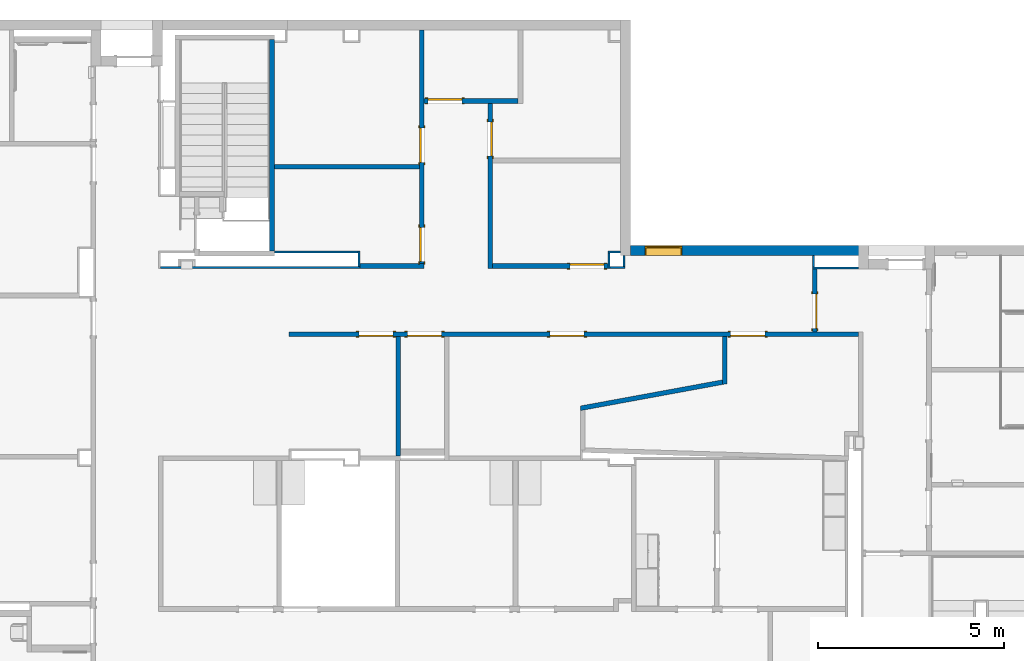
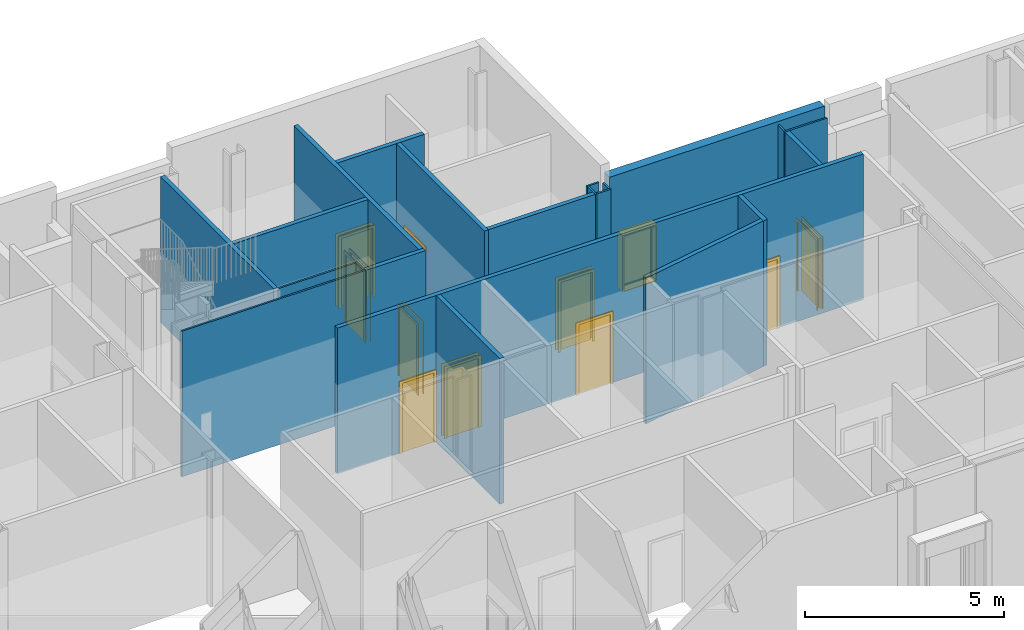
# One storey, part 34 of 82: 22 walls, 10 doors, 1 window, 11 openings.
"""IFC2X3 building model written with IfcOpenShell, lengths in metres."""

import ifcopenshell
import ifcopenshell.guid

model = None  # the IFC model being written
_history = None  # IfcOwnerHistory: only IFC2X3 demands one
_inside = {}  # id of a spatial element -> (the spatial element, [elements in it])
_under = {}  # id of a project, library or spatial element -> (it, [spatial elements below it])
_declared = {}  # id of a project -> (the project, [libraries it declares])
_typed = {}  # id of a type object -> (the type object, [elements of that type])
_made_of = {}  # id of a material, layer set ... -> (it, [elements and type objects made of it])


def new_model(schema):
    """Start an empty IFC model of exactly this schema.

    Asked for "IFC4X3", IfcOpenShell would pick the latest addendum, in which some entities
    have other attributes; the version numbers below select the first issue.
    IFC2X3 requires an IfcOwnerHistory on every rooted entity: one is made here for all.
    """
    global model, _history
    if schema == "IFC4X3":
        model = ifcopenshell.file(schema_version=(4, 3, 0, 0))
    else:
        model = ifcopenshell.file(schema=schema)
    _inside.clear()
    _under.clear()
    _declared.clear()
    _typed.clear()
    _made_of.clear()
    _history = None
    if model.schema == "IFC2X3":
        org = make("IfcOrganization", Name="unknown")
        user = make(
            "IfcPersonAndOrganization",
            ThePerson=make("IfcPerson", FamilyName="unknown"),
            TheOrganization=org,
        )
        app = make(
            "IfcApplication",
            ApplicationDeveloper=org,
            Version="unknown",
            ApplicationFullName="unknown",
            ApplicationIdentifier="unknown",
        )
        _history = make(
            "IfcOwnerHistory",
            OwningUser=user,
            OwningApplication=app,
            ChangeAction="ADDED",
            CreationDate=0,
        )
    return model


def make(cls, **values):
    """One entity of the class cls with the attributes given. An attribute that is None is left unset."""
    return model.create_entity(
        cls, **{name: value for name, value in values.items() if value is not None}
    )


def entity(cls, *values):
    """Any entity or typed value of the class cls, its attributes in the order of the schema. None: left unset."""
    e = model.create_entity(cls)
    for i, value in enumerate(values):
        if value is not None:
            e[i] = value
    return e


def rooted(cls, **values):
    """An entity with a GlobalId (a new one), such as an element, a storey or a relation."""
    return make(cls, GlobalId=ifcopenshell.guid.new(), OwnerHistory=_history, **values)


def si_unit(unit_type, name, prefix=None):
    """IfcSIUnit, for example si_unit("LENGTHUNIT", "METRE", prefix="MILLI")."""
    return make("IfcSIUnit", UnitType=unit_type, Prefix=prefix, Name=name)


def converted_unit(unit_type, name, factor, base, dimensions=None, offset=None):
    """IfcConversionBasedUnit, such as the inch: factor (a typed value) times the base unit."""
    return make(
        "IfcConversionBasedUnit"
        if offset is None
        else "IfcConversionBasedUnitWithOffset",
        ConversionOffset=offset,
        Dimensions=None
        if dimensions is None
        else entity("IfcDimensionalExponents", *dimensions),
        UnitType=unit_type,
        Name=name,
        ConversionFactor=make(
            "IfcMeasureWithUnit", ValueComponent=factor, UnitComponent=base
        ),
    )


def assignment(units):
    """IfcUnitAssignment: the units of a project."""
    return None if units is None else make("IfcUnitAssignment", Units=units)


def point(xyz):
    """IfcCartesianPoint."""
    return None if xyz is None else make("IfcCartesianPoint", Coordinates=xyz)


def direction(xyz):
    """IfcDirection."""
    return None if xyz is None else make("IfcDirection", DirectionRatios=xyz)


def frame(location, z_axis=None, x_axis=None):
    """IfcAxis2Placement3D, a coordinate frame: its origin and axes. An axis left out is left unset."""
    return make(
        "IfcAxis2Placement3D",
        Location=point(location),
        Axis=direction(z_axis),
        RefDirection=direction(x_axis),
    )


def frame_2d(location, x_axis=None):
    """IfcAxis2Placement2D, a coordinate frame in the plane: its origin and x axis."""
    return make(
        "IfcAxis2Placement2D", Location=point(location), RefDirection=direction(x_axis)
    )


def origin():
    """The frame at (0, 0, 0) with its axes left unset."""
    return frame((0.0, 0.0, 0.0))


def origin_2d_with_axis():
    """The frame at (0, 0) in the plane with the x axis (1, 0) written out."""
    return frame_2d((0.0, 0.0), x_axis=(1.0, 0.0))


def place(relative_to, where):
    """IfcLocalPlacement: puts the frame where relative to a parent placement (None: the world)."""
    return make(
        "IfcLocalPlacement", PlacementRelTo=relative_to, RelativePlacement=where
    )


def context(
    kind, dimensions, precision=None, world=None, true_north=None, identifier=None
):
    """IfcGeometricRepresentationContext, for example the 3D "Model" context."""
    return make(
        "IfcGeometricRepresentationContext",
        ContextIdentifier=identifier,
        ContextType=kind,
        CoordinateSpaceDimension=dimensions,
        Precision=precision,
        WorldCoordinateSystem=world,
        TrueNorth=true_north,
    )


def project(units=None, contexts=None):
    """IfcProject with its units and contexts."""
    return rooted(
        "IfcProject",
        Name="project",
        RepresentationContexts=contexts,
        UnitsInContext=assignment(units),
    )


def spatial(cls, under=None, at=None, **own):
    """A site, building, storey or space (cls), placed at a placement, below another one or the project."""
    s = rooted(cls, ObjectPlacement=at, **own)
    if under is not None:
        _under.setdefault(under.id(), (under, []))[1].append(s)
    return s


def polyline(points):
    """IfcPolyline through the points."""
    return make("IfcPolyline", Points=[point(p) for p in points])


def profile(cls, at=None, kind="AREA", **sizes):
    """A parametric profile (cls). Its sizes go by their IFC names, for example OverallWidth=200.0."""
    return make(cls, ProfileType=kind, Position=at, **sizes)


def rectangle(**sizes):
    """IfcRectangleProfileDef."""
    return profile("IfcRectangleProfileDef", **sizes)


def outline(outer, holes=None, kind="AREA"):
    """IfcArbitraryClosedProfileDef: a profile drawn as a closed curve; with holes, ...WithVoids."""
    if holes is None:
        return make("IfcArbitraryClosedProfileDef", ProfileType=kind, OuterCurve=outer)
    return make(
        "IfcArbitraryProfileDefWithVoids",
        ProfileType=kind,
        OuterCurve=outer,
        InnerCurves=holes,
    )


def extrude(swept, where, along, depth):
    """IfcExtrudedAreaSolid: the profile swept, set in the frame where, extruded along a direction by depth."""
    return make(
        "IfcExtrudedAreaSolid",
        SweptArea=swept,
        Position=where,
        ExtrudedDirection=direction(along),
        Depth=depth,
    )


def shape(context_of_items, identifier, shape_type, items):
    """IfcShapeRepresentation: the items that make up one representation, for example the "Body"."""
    return make(
        "IfcShapeRepresentation",
        ContextOfItems=context_of_items,
        RepresentationIdentifier=identifier,
        RepresentationType=shape_type,
        Items=items,
    )


def source(mapping_origin, context_of_items, identifier, shape_type, items):
    """IfcRepresentationMap: a shape defined once, which mapped items show again and again."""
    return make(
        "IfcRepresentationMap",
        MappingOrigin=mapping_origin,
        MappedRepresentation=shape(context_of_items, identifier, shape_type, items),
    )


def transform(
    local_origin,
    x_axis=None,
    y_axis=None,
    z_axis=None,
    scale=None,
    scale2=None,
    scale3=None,
    uniform=True,
):
    """IfcCartesianTransformationOperator3D, or its non-uniform kind. x_axis, y_axis, z_axis: its Axis1, 2, 3."""
    if uniform:
        return make(
            "IfcCartesianTransformationOperator3D",
            Axis1=direction(x_axis),
            Axis2=direction(y_axis),
            LocalOrigin=point(local_origin),
            Scale=scale,
            Axis3=direction(z_axis),
        )
    return make(
        "IfcCartesianTransformationOperator3DnonUniform",
        Axis1=direction(x_axis),
        Axis2=direction(y_axis),
        LocalOrigin=point(local_origin),
        Scale=scale,
        Axis3=direction(z_axis),
        Scale2=scale2,
        Scale3=scale3,
    )


def mapped(mapping_source, mapping_target):
    """IfcMappedItem: shows the shape of a source again, moved by a transform."""
    return make(
        "IfcMappedItem", MappingSource=mapping_source, MappingTarget=mapping_target
    )


def material(Name=None, Category=None):
    """IfcMaterial."""
    return make("IfcMaterial", Name=Name, Category=Category)


def layer(
    of_material, thickness, ventilated=None, Name=None, Category=None, Priority=None
):
    """IfcMaterialLayer: one layer of a wall or slab, of a material (None: an air gap)."""
    return make(
        "IfcMaterialLayer",
        Material=of_material,
        LayerThickness=thickness,
        IsVentilated=ventilated,
        Name=Name,
        Category=Category,
        Priority=Priority,
    )


def layer_set(layers, Name=None):
    """IfcMaterialLayerSet."""
    return make("IfcMaterialLayerSet", MaterialLayers=layers, LayerSetName=Name)


def layer_usage(for_layer_set, set_direction, sense, offset, extent=None):
    """IfcMaterialLayerSetUsage: how a layer set lies in its element."""
    return make(
        "IfcMaterialLayerSetUsage",
        ForLayerSet=for_layer_set,
        LayerSetDirection=set_direction,
        DirectionSense=sense,
        OffsetFromReferenceLine=offset,
        ReferenceExtent=extent,
    )


def made_of(thing, what):
    """Note that an element or type object is made of a material, layer set ...; save() writes the relation."""
    if what is not None:
        _made_of.setdefault(what.id(), (what, []))[1].append(thing)
    return thing


def type_object(cls, material=None, **own):
    """A type object (cls), such as IfcWallType, which elements share."""
    return made_of(rooted(cls, **own), material)


def type_shapes(of_type, sources):
    """Give a type object the sources (RepresentationMaps) that its elements show as mapped items."""
    of_type.RepresentationMaps = sources


def element(
    cls,
    number,
    at=None,
    inside=None,
    cuts=None,
    type_object=None,
    material=None,
    context=None,
    identifier="Body",
    shape_type=None,
    held_by="IfcProductDefinitionShape",
    body=None,
    shapes=None,
    **own,
):
    """One element of the class cls, such as IfcWall. Its Tag is "e" and its number.

    at: its placement. inside: the storey or other place that contains it. cuts: it is an
    opening in that element (IfcRelVoidsElement). A single representation is given by context,
    identifier, shape_type and body (its items); several are given by shapes. held_by: the class
    of the entity that holds the representations. save() writes the other relations.
    """
    e = rooted(cls, Tag="e%d" % number, ObjectPlacement=at, **own)
    if body is not None:
        shapes = [shape(context, identifier, shape_type, body)]
    if shapes is not None:
        e.Representation = make(held_by, Representations=shapes)
    if inside is not None:
        _inside.setdefault(inside.id(), (inside, []))[1].append(e)
    if cuts is not None:
        rooted(
            "IfcRelVoidsElement", RelatingBuildingElement=cuts, RelatedOpeningElement=e
        )
    if type_object is not None:
        _typed.setdefault(type_object.id(), (type_object, []))[1].append(e)
    return made_of(e, material)


def fill(opening, filler):
    """IfcRelFillsElement: the door or window that sits in an opening."""
    return rooted(
        "IfcRelFillsElement",
        RelatingOpeningElement=opening,
        RelatedBuildingElement=filler,
    )


def aggregate(whole, parts):
    """IfcRelAggregates: a whole, such as a stair, and the parts it consists of."""
    return rooted("IfcRelAggregates", RelatingObject=whole, RelatedObjects=parts)


def save(model, path):
    """Write the relations noted so far, then the file.

    IfcRelAggregates (storeys below a building ...), IfcRelContainedInSpatialStructure (elements
    in a storey), IfcRelDefinesByType, IfcRelAssociatesMaterial and IfcRelDeclares: one each for
    every whole, place, type object, material and project.
    """
    for whole, parts in _under.values():
        aggregate(whole, parts)
    for where, things in _inside.values():
        rooted(
            "IfcRelContainedInSpatialStructure",
            RelatedElements=things,
            RelatingStructure=where,
        )
    for kind, things in _typed.values():
        rooted("IfcRelDefinesByType", RelatedObjects=things, RelatingType=kind)
    for what, things in _made_of.values():
        rooted("IfcRelAssociatesMaterial", RelatedObjects=things, RelatingMaterial=what)
    for by, libraries in _declared.values():
        rooted("IfcRelDeclares", RelatingContext=by, RelatedDefinitions=libraries)
    model.write(path)


model = new_model("IFC2X3")

# Units and contexts
model_context = context("Model", 3, precision=1e-09, world=origin())
plan_context = context("Plan", 3, precision=1e-09, world=origin())
ifc_project = project(units=[si_unit("LENGTHUNIT", "METRE"), si_unit("AREAUNIT", "SQUARE_METRE"), si_unit("VOLUMEUNIT", "CUBIC_METRE"), converted_unit("PLANEANGLEUNIT", "DEGREE", entity("IfcRatioMeasure", 0.01745329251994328), si_unit("PLANEANGLEUNIT", "RADIAN"), dimensions=[0, 0, 0, 0, 0, 0, 0]), si_unit("TIMEUNIT", "SECOND")], contexts=[model_context, plan_context])

# Site, building, storey
site_placement = place(None, origin())
site = spatial("IfcSite", under=ifc_project, at=site_placement, Name="Default", CompositionType="ELEMENT")
building_placement = place(site_placement, origin())
building = spatial("IfcBuilding", under=site, at=building_placement, CompositionType="ELEMENT")
storey_placement = place(building_placement, origin())
storey = spatial("IfcBuildingStorey", under=building, at=storey_placement, Name="First Floor", CompositionType="ELEMENT", Elevation=-3.531500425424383e-13)

# Wall, openings, doors
ifc_material_1 = material(Name="Plasterboard")
ifc_layer_1 = layer(ifc_material_1, 0.016)
ifc_material_2 = material(Name="Metal - Stud Layer")
ifc_layer_2 = layer(ifc_material_2, 0.092)
ifc_layer_3 = layer(ifc_material_1, 0.016)
ifc_layer_set_1 = layer_set([ifc_layer_1, ifc_layer_2, ifc_layer_3], Name="Basic Wall:Interior - Partition (92mm Stud)")
ifc_layer_usage_1 = layer_usage(ifc_layer_set_1, "AXIS2", "NEGATIVE", 0.062)
wall_1_placement = place(storey_placement, frame((-35.21500000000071, 48.08799999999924, 0.0)))
wall_1 = element("IfcWallStandardCase", 1, at=wall_1_placement, inside=storey, material=ifc_layer_usage_1, Name="Basic Wall:Interior - Partition (92mm Stud)", ObjectType="Basic Wall:Interior - Partition (92mm Stud)", context=model_context, shape_type="SweptSolid", body=[
    extrude(rectangle(XDim=15.26100000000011, YDim=0.1240000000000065, at=frame_2d((7.630500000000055, 0.0), x_axis=(-1.0, 0.0))), origin(), (0.0, 0.0, 1.0), 4.468000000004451),
])
opening_1_placement = place(wall_1_placement, frame((12.75500000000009, 0.06199999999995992, 0.0)))
opening_1 = element("IfcOpeningElement", 2, at=opening_1_placement, cuts=wall_1, Name="M_Single-Flush:0915 x 2134mm:0915 x 2134mm:1", ObjectType="Opening", context=model_context, shape_type="SweptSolid", body=[
    extrude(rectangle(XDim=0.9149999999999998, YDim=2.134, at=frame_2d((1.067, 0.4575), x_axis=(0.0, 1.0))), frame((0.0, 0.0, 0.0), z_axis=(0.0, -1.0, 0.0), x_axis=(0.0, 0.0, 1.0)), (0.0, 0.0, 1.0), 0.124),
])
opening_2_placement = place(wall_1_placement, frame((2.786000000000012, 0.06199999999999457, 0.0)))
opening_2 = element("IfcOpeningElement", 3, at=opening_2_placement, cuts=wall_1, Name="M_Single-Flush:0915 x 2134mm:0915 x 2134mm:1", ObjectType="Opening", context=model_context, shape_type="SweptSolid", body=[
    extrude(rectangle(XDim=0.9149999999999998, YDim=2.134, at=frame_2d((1.067, 0.4574999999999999), x_axis=(0.0, -1.0))), frame((0.0, 0.0, 0.0), z_axis=(0.0, -1.0, 0.0), x_axis=(0.0, 0.0, 1.0)), (0.0, 0.0, 1.0), 0.124),
])
opening_3_placement = place(wall_1_placement, frame((4.086000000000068, 0.06199999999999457, 0.0)))
opening_3 = element("IfcOpeningElement", 4, at=opening_3_placement, cuts=wall_1, Name="M_Single-Flush:0915 x 2134mm:0915 x 2134mm:1", ObjectType="Opening", context=model_context, shape_type="SweptSolid", body=[
    extrude(rectangle(XDim=0.9149999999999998, YDim=2.134, at=frame_2d((1.067, 0.4574999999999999), x_axis=(0.0, -1.0))), frame((0.0, 0.0, 0.0), z_axis=(0.0, -1.0, 0.0), x_axis=(0.0, 0.0, 1.0)), (0.0, 0.0, 1.0), 0.124),
])
opening_4_placement = place(wall_1_placement, frame((7.905000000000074, 0.06199999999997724, 0.0)))
opening_4 = element("IfcOpeningElement", 5, at=opening_4_placement, cuts=wall_1, Name="M_Single-Flush:0915 x 2134mm:0915 x 2134mm:1", ObjectType="Opening", context=model_context, shape_type="SweptSolid", body=[
    extrude(rectangle(XDim=0.9149999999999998, YDim=2.134, at=frame_2d((1.067, 0.4574999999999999), x_axis=(0.0, -1.0))), frame((0.0, 0.0, 0.0), z_axis=(0.0, -1.0, 0.0), x_axis=(0.0, 0.0, 1.0)), (0.0, 0.0, 1.0), 0.124),
])
door_style_1 = type_object("IfcDoorStyle", Name="0915 x 2134mm", ConstructionType="NOTDEFINED", OperationType="SINGLE_SWING_RIGHT", ParameterTakesPrecedence=False, Sizeable=False)
shared_shape_1 = source(origin(), model_context, "Body", "SweptSolid", [
    extrude(outline(polyline([(-0.5335, -1.123999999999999), (0.5334999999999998, -1.123999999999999), (0.5334999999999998, 1.086), (0.4574999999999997, 1.086), (0.4574999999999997, -1.048000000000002), (-0.4574999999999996, -1.048000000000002), (-0.4574999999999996, 1.086), (-0.5335, 1.086), (-0.5335, -1.123999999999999)])), frame((0.4575000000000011, 0.1239999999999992, 1.086), z_axis=(0.0, 1.0, 0.0), x_axis=(1.0, 0.0, 0.0)), (0.0, 0.0, 1.0), 0.02499999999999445),
    extrude(outline(polyline([(-1.123999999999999, -0.5334999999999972), (1.085999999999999, -0.5334999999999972), (1.085999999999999, -0.4575000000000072), (-1.048, -0.4575000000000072), (-1.048, 0.4575000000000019), (1.085999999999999, 0.4575000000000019), (1.085999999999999, 0.5335000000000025), (-1.123999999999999, 0.5335000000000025), (-1.123999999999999, -0.5334999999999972)])), frame((0.4575000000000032, -0.02500000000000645, 1.085999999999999), z_axis=(0.0, 1.0, 0.0), x_axis=(0.0, 0.0, -1.0)), (0.0, 0.0, 1.0), 0.02500000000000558),
    extrude(rectangle(XDim=0.051, YDim=0.9149999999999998, at=origin_2d_with_axis()), frame((0.4575000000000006, 0.09849999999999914, 0.0), z_axis=(0.0, 0.0, 1.0), x_axis=(0.0, 1.0, 0.0)), (0.0, 0.0, 1.0), 2.133999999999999),
])
type_shapes(door_style_1, [shared_shape_1])
door_1_placement = place(opening_1_placement, frame((0.0, 0.0, 0.0), z_axis=(0.0, 0.0, 1.0), x_axis=(-1.0, 0.0, 0.0)))
door_1 = element("IfcDoor", 6, at=door_1_placement, inside=storey, type_object=door_style_1, Name="M_Single-Flush:0915 x 2134mm:0915 x 2134mm", ObjectType="0915 x 2134mm", OverallHeight=2.134, OverallWidth=0.9149999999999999, context=model_context, shape_type="MappedRepresentation", body=[
    mapped(shared_shape_1, transform((0.0, 0.0, 0.0), scale=1.0)),
])
fill(opening_1, door_1)
door_style_2 = type_object("IfcDoorStyle", Name="0915 x 2134mm", ConstructionType="NOTDEFINED", OperationType="SINGLE_SWING_LEFT", ParameterTakesPrecedence=False, Sizeable=False)
shared_shape_2 = source(origin(), model_context, "Body", "SweptSolid", [
    extrude(outline(polyline([(-0.5335, -1.123999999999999), (0.5334999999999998, -1.123999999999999), (0.5334999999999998, 1.086), (0.4574999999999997, 1.086), (0.4574999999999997, -1.048000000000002), (-0.4574999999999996, -1.048000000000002), (-0.4574999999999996, 1.086), (-0.5335, 1.086), (-0.5335, -1.123999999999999)])), frame((0.4575000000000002, 0.1489999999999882, 1.086), z_axis=(0.0, -1.0, 0.0), x_axis=(-1.0, 0.0, 0.0)), (0.0, 0.0, 1.0), 0.02499999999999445),
    extrude(outline(polyline([(-1.123999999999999, -0.5334999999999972), (1.085999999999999, -0.5334999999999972), (1.085999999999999, -0.4575000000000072), (-1.048, -0.4575000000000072), (-1.048, 0.4575000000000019), (1.085999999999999, 0.4575000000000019), (1.085999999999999, 0.5335000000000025), (-1.123999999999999, 0.5335000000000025), (-1.123999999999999, -0.5334999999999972)])), frame((0.4574999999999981, 0.0, 1.085999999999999), z_axis=(0.0, -1.0, 0.0), x_axis=(0.0, 0.0, -1.0)), (0.0, 0.0, 1.0), 0.02500000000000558),
    extrude(rectangle(XDim=0.9149999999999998, YDim=0.051, at=origin_2d_with_axis()), frame((0.4575000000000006, 0.09849999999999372, 0.0)), (0.0, 0.0, 1.0), 2.133999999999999),
])
type_shapes(door_style_2, [shared_shape_2])
door_2_placement = place(opening_2_placement, frame((0.0, 0.0, 0.0), z_axis=(0.0, 0.0, 1.0), x_axis=(-1.0, 0.0, 0.0)))
door_2 = element("IfcDoor", 7, at=door_2_placement, inside=storey, type_object=door_style_2, Name="M_Single-Flush:0915 x 2134mm:0915 x 2134mm", ObjectType="0915 x 2134mm", OverallHeight=2.134, OverallWidth=0.9149999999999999, context=model_context, shape_type="MappedRepresentation", body=[
    mapped(shared_shape_2, transform((0.0, 0.0, 0.0), scale=1.0)),
])
fill(opening_2, door_2)
door_3_placement = place(opening_3_placement, frame((0.0, 0.0, 0.0), z_axis=(0.0, 0.0, 1.0), x_axis=(-1.0, 0.0, 0.0)))
door_3 = element("IfcDoor", 8, at=door_3_placement, inside=storey, type_object=door_style_2, Name="M_Single-Flush:0915 x 2134mm:0915 x 2134mm", ObjectType="0915 x 2134mm", OverallHeight=2.134, OverallWidth=0.9149999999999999, context=model_context, shape_type="MappedRepresentation", body=[
    mapped(shared_shape_2, transform((0.0, 0.0, 0.0), scale=1.0)),
])
fill(opening_3, door_3)
door_4_placement = place(opening_4_placement, frame((0.0, 0.0, 0.0), z_axis=(0.0, 0.0, 1.0), x_axis=(-1.0, 0.0, 0.0)))
door_4 = element("IfcDoor", 9, at=door_4_placement, inside=storey, type_object=door_style_2, Name="M_Single-Flush:0915 x 2134mm:0915 x 2134mm", ObjectType="0915 x 2134mm", OverallHeight=2.134, OverallWidth=0.9149999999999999, context=model_context, shape_type="MappedRepresentation", body=[
    mapped(shared_shape_2, transform((0.0, 0.0, 0.0), scale=1.0)),
])
fill(opening_4, door_4)

wall_2_placement = place(storey_placement, frame((-31.66200000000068, 56.25299999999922, 0.0), z_axis=(0.0, 0.0, 1.0), x_axis=(0.0, -1.0, 0.0)))
wall_2 = element("IfcWallStandardCase", 10, at=wall_2_placement, inside=storey, material=ifc_layer_usage_1, Name="Basic Wall:Interior - Partition (92mm Stud)", ObjectType="Basic Wall:Interior - Partition (92mm Stud)", context=model_context, shape_type="SweptSolid", body=[
    extrude(rectangle(XDim=6.26899999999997, YDim=0.1239999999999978, at=frame_2d((3.134499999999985, 0.0), x_axis=(-1.0, 0.0))), origin(), (0.0, 0.0, 1.0), 4.46800000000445),
])
opening_5_placement = place(wall_2_placement, frame((6.208999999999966, 0.06199999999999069, 0.0)))
opening_5 = element("IfcOpeningElement", 11, at=opening_5_placement, cuts=wall_2, Name="M_Single-Flush:0915 x 2134mm:0915 x 2134mm:1", ObjectType="Opening", context=model_context, shape_type="SweptSolid", body=[
    extrude(rectangle(XDim=0.9149999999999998, YDim=2.134, at=frame_2d((1.067, 0.4574999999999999), x_axis=(0.0, -1.0))), frame((0.0, 0.0, 0.0), z_axis=(0.0, -1.0, 0.0), x_axis=(0.0, 0.0, 1.0)), (0.0, 0.0, 1.0), 0.124),
])
opening_6_placement = place(wall_2_placement, frame((3.548999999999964, 0.06199999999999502, 0.0)))
opening_6 = element("IfcOpeningElement", 12, at=opening_6_placement, cuts=wall_2, Name="M_Single-Flush:0915 x 2134mm:0915 x 2134mm:1", ObjectType="Opening", context=model_context, shape_type="SweptSolid", body=[
    extrude(rectangle(XDim=0.9149999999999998, YDim=2.134, at=frame_2d((1.067, 0.4574999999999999), x_axis=(0.0, -1.0))), frame((0.0, 0.0, 0.0), z_axis=(0.0, -1.0, 0.0), x_axis=(0.0, 0.0, 1.0)), (0.0, 0.0, 1.0), 0.124),
])
door_5_placement = place(opening_5_placement, frame((0.0, 0.0, 0.0), z_axis=(0.0, 0.0, 1.0), x_axis=(-1.0, 0.0, 0.0)))
door_5 = element("IfcDoor", 13, at=door_5_placement, inside=storey, type_object=door_style_2, Name="M_Single-Flush:0915 x 2134mm:0915 x 2134mm", ObjectType="0915 x 2134mm", OverallHeight=2.134, OverallWidth=0.9149999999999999, context=model_context, shape_type="MappedRepresentation", body=[
    mapped(shared_shape_2, transform((0.0, 0.0, 0.0), scale=1.0)),
])
fill(opening_5, door_5)
door_6_placement = place(opening_6_placement, frame((0.0, 0.0, 0.0), z_axis=(0.0, 0.0, 1.0), x_axis=(-1.0, 0.0, 0.0)))
door_6 = element("IfcDoor", 14, at=door_6_placement, inside=storey, type_object=door_style_2, Name="M_Single-Flush:0915 x 2134mm:0915 x 2134mm", ObjectType="0915 x 2134mm", OverallHeight=2.134, OverallWidth=0.9149999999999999, context=model_context, shape_type="MappedRepresentation", body=[
    mapped(shared_shape_2, transform((0.0, 0.0, 0.0), scale=1.0)),
])
fill(opening_6, door_6)

# Wall
ifc_material_3 = material(Name="Type-X Plasterboard")
ifc_layer_4 = layer(ifc_material_3, 0.016)
ifc_layer_5 = layer(ifc_material_2, 0.092)
ifc_layer_6 = layer(ifc_material_3, 0.016)
ifc_layer_set_2 = layer_set([ifc_layer_4, ifc_layer_5, ifc_layer_6], Name="Basic Wall:Interior - Rated 1-HR (92mm Stud)")
ifc_layer_usage_2 = layer_usage(ifc_layer_set_2, "AXIS2", "NEGATIVE", 0.06200000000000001)
wall_3_placement = place(storey_placement, frame((-35.67800000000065, 50.31999999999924, 0.0), z_axis=(0.0, 0.0, 1.0), x_axis=(0.0, 1.0, 0.0)))
element("IfcWallStandardCase", 15, at=wall_3_placement, inside=storey, material=ifc_layer_usage_2, Name="Basic Wall:Interior - Rated 1-HR (92mm Stud)", ObjectType="Basic Wall:Interior - Rated 1-HR (92mm Stud)", context=model_context, shape_type="SweptSolid", body=[
    extrude(rectangle(XDim=5.675000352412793, YDim=0.1239999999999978, at=frame_2d((2.837500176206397, 0.0), x_axis=(-1.0, 0.0))), origin(), (0.0, 0.0, 1.0), 4.468000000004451),
])

# Wall, opening, window
ifc_material_4 = material(Name="Insulation - Insulated Panel")
ifc_layer_7 = layer(ifc_material_4, 0.042)
ifc_material_5 = material(Name="Metal - Firring")
ifc_layer_8 = layer(ifc_material_5, 0.038)
ifc_material_6 = material(Name="Wood - Sheathing - plywood")
ifc_layer_9 = layer(ifc_material_6, 0.019)
ifc_layer_10 = layer(ifc_material_2, 0.152)
ifc_layer_11 = layer(ifc_material_1, 0.016)
ifc_layer_set_3 = layer_set([ifc_layer_7, ifc_layer_8, ifc_layer_9, ifc_layer_10, ifc_layer_11], Name="Basic Wall:Exterior - Insul Panel on Mtl. Stud")
ifc_layer_usage_3 = layer_usage(ifc_layer_set_3, "AXIS2", "NEGATIVE", 0.1335)
wall_4_placement = place(storey_placement, frame((-26.06000000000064, 50.33649999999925, 0.0)))
wall_4 = element("IfcWallStandardCase", 16, at=wall_4_placement, inside=storey, material=ifc_layer_usage_3, Name="Basic Wall:Exterior - Insul Panel on Mtl. Stud", ObjectType="Basic Wall:Exterior - Insul Panel on Mtl. Stud", context=model_context, shape_type="SweptSolid", body=[
    extrude(rectangle(XDim=6.244500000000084, YDim=0.2670000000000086, at=frame_2d((3.122250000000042, 0.0), x_axis=(-1.0, 0.0))), origin(), (0.0, 0.0, 1.0), 4.57000000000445),
])
opening_7_placement = place(wall_4_placement, frame((0.3799999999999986, -0.1335000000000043, 0.9049999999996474)))
opening_7 = element("IfcOpeningElement", 17, at=opening_7_placement, cuts=wall_4, Name="M_Fixed:1735 x 1000mm:1735 x 1000mm:1", ObjectType="Opening", context=model_context, shape_type="SweptSolid", body=[
    extrude(rectangle(XDim=1.734999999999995, YDim=0.9999999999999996, at=frame_2d((0.8674999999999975, 0.4999999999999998), x_axis=(1.0, 0.0))), frame((0.0, 0.0, 0.0), z_axis=(0.0, 1.0, 0.0), x_axis=(0.0, 0.0, 1.0)), (0.0, 0.0, 1.0), 0.267),
])
window_style = type_object("IfcWindowStyle", Name="1735 x 1000mm", ConstructionType="NOTDEFINED", OperationType="NOTDEFINED", ParameterTakesPrecedence=False, Sizeable=False)
shared_shape_3 = source(origin(), model_context, "Body", "SweptSolid", [
    extrude(rectangle(XDim=0.012, YDim=0.873999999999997, at=origin_2d_with_axis()), frame((0.5000000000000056, 0.2259999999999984, 0.06299999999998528), z_axis=(0.0, 0.0, 1.0), x_axis=(0.0, -1.0, 0.0)), (0.0, 0.0, 1.0), 1.609000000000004),
    extrude(outline(polyline([(-0.4809999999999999, -0.8485000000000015), (0.4809999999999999, -0.8485000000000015), (0.4809999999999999, 0.8485000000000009), (-0.4809999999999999, 0.8485000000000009), (-0.4809999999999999, -0.8485000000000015)]), holes=[polyline([(-0.4369999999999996, -0.8045000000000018), (-0.4369999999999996, 0.8045000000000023), (0.4369999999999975, 0.8045000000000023), (0.4369999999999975, -0.8045000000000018), (-0.4369999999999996, -0.8045000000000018)])]), frame((0.5000000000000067, 0.203999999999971, 0.8674999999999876), z_axis=(0.0, 1.0, 0.0), x_axis=(1.0, 0.0, 0.0)), (0.0, 0.0, 1.0), 0.04400000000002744),
    extrude(outline(polyline([(-0.4999999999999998, -0.8674999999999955), (0.4999999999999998, -0.8674999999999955), (0.4999999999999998, 0.8674999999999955), (-0.4999999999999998, 0.8674999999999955), (-0.4999999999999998, -0.8674999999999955)]), holes=[polyline([(-0.4810000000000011, -0.8484999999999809), (-0.4810000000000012, 0.8485000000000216), (0.4809999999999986, 0.8485000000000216), (0.4809999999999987, -0.8484999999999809), (-0.4810000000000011, -0.8484999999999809)])]), frame((0.500000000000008, 0.203999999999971, 0.8675000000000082), z_axis=(0.0, 1.0, 0.0), x_axis=(1.0, 0.0, 0.0)), (0.0, 0.0, 1.0), 0.06300000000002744),
    extrude(outline(polyline([(-0.5000000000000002, -0.867499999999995), (0.5000000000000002, -0.867499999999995), (0.5000000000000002, 0.867499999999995), (-0.5000000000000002, 0.867499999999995), (-0.5000000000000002, -0.867499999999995)]), holes=[polyline([(-0.4679999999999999, -0.8354999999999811), (-0.4679999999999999, 0.8355000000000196), (0.4680000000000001, 0.8355000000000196), (0.4680000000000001, -0.8354999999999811), (-0.4679999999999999, -0.8354999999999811)])]), frame((0.5000000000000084, 0.0, 0.8675000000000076), z_axis=(0.0, 1.0, 0.0), x_axis=(1.0, 0.0, 0.0)), (0.0, 0.0, 1.0), 0.2039999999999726),
])
type_shapes(window_style, [shared_shape_3])
window_placement = place(opening_7_placement, origin())
window = element("IfcWindow", 18, at=window_placement, inside=storey, type_object=window_style, Name="M_Fixed:1735 x 1000mm:1735 x 1000mm", ObjectType="1735 x 1000mm", OverallHeight=1.734999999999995, OverallWidth=0.9999999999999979, context=model_context, shape_type="MappedRepresentation", body=[
    mapped(shared_shape_3, transform((0.0, 0.0, 0.0), scale=1.0)),
])
fill(opening_7, window)

# Wall, opening, door
wall_5_placement = place(storey_placement, frame((-29.82800000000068, 49.85999999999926, 0.0), z_axis=(0.0, 0.0, 1.0), x_axis=(0.0, 1.0, 0.0)))
wall_5 = element("IfcWallStandardCase", 19, at=wall_5_placement, inside=storey, material=ifc_layer_usage_1, Name="Basic Wall:Interior - Partition (92mm Stud)", ObjectType="Basic Wall:Interior - Partition (92mm Stud)", context=model_context, shape_type="SweptSolid", body=[
    extrude(rectangle(XDim=4.42659999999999, YDim=0.1239999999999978, at=frame_2d((2.213299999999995, 0.0), x_axis=(-1.0, 0.0))), origin(), (0.0, 0.0, 1.0), 4.46800000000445),
])
opening_8_placement = place(wall_5_placement, frame((3.928999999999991, 0.06199999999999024, 0.0)))
opening_8 = element("IfcOpeningElement", 20, at=opening_8_placement, cuts=wall_5, Name="M_Single-Flush:0915 x 2134mm:0915 x 2134mm:1", ObjectType="Opening", context=model_context, shape_type="SweptSolid", body=[
    extrude(rectangle(XDim=0.9149999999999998, YDim=2.134, at=frame_2d((1.067, 0.4575), x_axis=(0.0, 1.0))), frame((0.0, 0.0, 0.0), z_axis=(0.0, -1.0, 0.0), x_axis=(0.0, 0.0, 1.0)), (0.0, 0.0, 1.0), 0.124),
])
door_7_placement = place(opening_8_placement, frame((0.0, 0.0, 0.0), z_axis=(0.0, 0.0, 1.0), x_axis=(-1.0, 0.0, 0.0)))
door_7 = element("IfcDoor", 21, at=door_7_placement, inside=storey, type_object=door_style_1, Name="M_Single-Flush:0915 x 2134mm:0915 x 2134mm", ObjectType="0915 x 2134mm", OverallHeight=2.134, OverallWidth=0.9149999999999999, context=model_context, shape_type="MappedRepresentation", body=[
    mapped(shared_shape_1, transform((0.0, 0.0, 0.0), scale=1.0)),
])
fill(opening_8, door_7)

# Walls
ifc_layer_12 = layer(ifc_material_2, 0.038)
ifc_layer_13 = layer(ifc_material_1, 0.016)
ifc_layer_set_4 = layer_set([ifc_layer_12, ifc_layer_13], Name="Basic Wall:Interior - Furring (38 mm Stud)")
ifc_layer_usage_4 = layer_usage(ifc_layer_set_4, "AXIS2", "NEGATIVE", 0.027)
wall_6_placement = place(storey_placement, frame((-38.66600000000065, 49.88699999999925, 0.0)))
element("IfcWallStandardCase", 22, at=wall_6_placement, inside=storey, material=ifc_layer_usage_4, Name="Basic Wall:Interior - Furring (38 mm Stud)", ObjectType="Basic Wall:Interior - Furring (38 mm Stud)", context=model_context, shape_type="SweptSolid", body=[
    extrude(rectangle(XDim=5.346000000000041, YDim=0.05400000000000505, at=frame_2d((2.673000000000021, 0.0), x_axis=(-1.0, 0.0))), origin(), (0.0, 0.0, 1.0), 4.46800000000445),
])
ifc_layer_usage_5 = layer_usage(ifc_layer_set_4, "AXIS2", "POSITIVE", -0.027)
wall_7_placement = place(storey_placement, frame((-19.94900000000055, 49.86999999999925, 0.0), z_axis=(0.0, 0.0, 1.0), x_axis=(-1.0, 0.0, 0.0)))
element("IfcWallStandardCase", 23, at=wall_7_placement, inside=storey, material=ifc_layer_usage_5, Name="Basic Wall:Interior - Furring (38 mm Stud)", ObjectType="Basic Wall:Interior - Furring (38 mm Stud)", context=model_context, shape_type="SweptSolid", body=[
    extrude(rectangle(XDim=1.231000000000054, YDim=0.05400000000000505, at=frame_2d((0.6155000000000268, 0.0), x_axis=(-1.0, 0.0))), origin(), (0.0, 0.0, 1.0), 4.46800000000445),
])
wall_8_placement = place(storey_placement, frame((-32.2870000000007, 48.02599999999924, 0.0), z_axis=(0.0, 0.0, 1.0), x_axis=(0.0, -1.0, 0.0)))
element("IfcWallStandardCase", 24, at=wall_8_placement, inside=storey, material=ifc_layer_usage_1, Name="Basic Wall:Interior - Partition (92mm Stud)", ObjectType="Basic Wall:Interior - Partition (92mm Stud)", context=model_context, shape_type="SweptSolid", body=[
    extrude(rectangle(XDim=3.195999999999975, YDim=0.1239999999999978, at=frame_2d((1.597999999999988, 0.0), x_axis=(-1.0, 0.0))), origin(), (0.0, 0.0, 1.0), 4.46800000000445),
])

# Wall, opening, door
wall_9_placement = place(storey_placement, frame((-26.67000000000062, 49.92199999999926, 0.0), z_axis=(0.0, 0.0, 1.0), x_axis=(-1.0, 0.0, 0.0)))
wall_9 = element("IfcWallStandardCase", 25, at=wall_9_placement, inside=storey, material=ifc_layer_usage_1, Name="Basic Wall:Interior - Partition (92mm Stud)", ObjectType="Basic Wall:Interior - Partition (92mm Stud)", context=model_context, shape_type="SweptSolid", body=[
    extrude(rectangle(XDim=3.096000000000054, YDim=0.1240000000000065, at=frame_2d((1.548000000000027, 0.0), x_axis=(-1.0, 0.0))), origin(), (0.0, 0.0, 1.0), 4.46800000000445),
])
opening_9_placement = place(wall_9_placement, frame((1.015000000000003, 0.06200000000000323, 0.0)))
opening_9 = element("IfcOpeningElement", 26, at=opening_9_placement, cuts=wall_9, Name="M_Single-Flush:0915 x 2134mm:0915 x 2134mm:1", ObjectType="Opening", context=model_context, shape_type="SweptSolid", body=[
    extrude(rectangle(XDim=0.9149999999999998, YDim=2.134, at=frame_2d((1.067, 0.4575), x_axis=(0.0, 1.0))), frame((0.0, 0.0, 0.0), z_axis=(0.0, -1.0, 0.0), x_axis=(0.0, 0.0, 1.0)), (0.0, 0.0, 1.0), 0.124),
])
door_8_placement = place(opening_9_placement, frame((0.0, 0.0, 0.0), z_axis=(0.0, 0.0, 1.0), x_axis=(-1.0, 0.0, 0.0)))
door_8 = element("IfcDoor", 27, at=door_8_placement, inside=storey, type_object=door_style_1, Name="M_Single-Flush:0915 x 2134mm:0915 x 2134mm", ObjectType="0915 x 2134mm", OverallHeight=2.134, OverallWidth=0.9149999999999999, context=model_context, shape_type="MappedRepresentation", body=[
    mapped(shared_shape_1, transform((0.0, 0.0, 0.0), scale=1.0)),
])
fill(opening_9, door_8)

wall_10_placement = place(storey_placement, frame((-29.07400000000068, 54.34859999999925, 0.0), z_axis=(0.0, 0.0, 1.0), x_axis=(-1.0, 0.0, 0.0)))
wall_10 = element("IfcWallStandardCase", 28, at=wall_10_placement, inside=storey, material=ifc_layer_usage_1, Name="Basic Wall:Interior - Partition (92mm Stud)", ObjectType="Basic Wall:Interior - Partition (92mm Stud)", context=model_context, shape_type="SweptSolid", body=[
    extrude(rectangle(XDim=2.526000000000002, YDim=0.1240000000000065, at=frame_2d((1.263000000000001, 0.0), x_axis=(-1.0, 0.0))), origin(), (0.0, 0.0, 1.0), 4.46800000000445),
])
opening_10_placement = place(wall_10_placement, frame((2.426000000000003, 0.06199999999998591, 0.0)))
opening_10 = element("IfcOpeningElement", 29, at=opening_10_placement, cuts=wall_10, Name="M_Single-Flush:0915 x 2134mm:0915 x 2134mm:1", ObjectType="Opening", context=model_context, shape_type="SweptSolid", body=[
    extrude(rectangle(XDim=0.9149999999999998, YDim=2.134, at=frame_2d((1.067, 0.4575000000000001), x_axis=(0.0, -1.0))), frame((0.0, 0.0, 0.0), z_axis=(0.0, -1.0, 0.0), x_axis=(0.0, 0.0, 1.0)), (0.0, 0.0, 1.0), 0.124),
])
door_9_placement = place(opening_10_placement, frame((0.0, 0.0, 0.0), z_axis=(0.0, 0.0, 1.0), x_axis=(-1.0, 0.0, 0.0)))
door_9 = element("IfcDoor", 30, at=door_9_placement, inside=storey, type_object=door_style_2, Name="M_Single-Flush:0915 x 2134mm:0915 x 2134mm", ObjectType="0915 x 2134mm", OverallHeight=2.134, OverallWidth=0.9149999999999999, context=model_context, shape_type="MappedRepresentation", body=[
    mapped(shared_shape_2, transform((0.0, 0.0, 0.0), scale=1.0)),
])
fill(opening_10, door_9)

wall_11_placement = place(storey_placement, frame((-21.11800000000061, 48.14999999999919, 0.0), z_axis=(0.0, 0.0, 1.0), x_axis=(0.0, 1.0, 0.0)))
wall_11 = element("IfcWallStandardCase", 31, at=wall_11_placement, inside=storey, material=ifc_layer_usage_1, Name="Basic Wall:Interior - Partition (92mm Stud)", ObjectType="Basic Wall:Interior - Partition (92mm Stud)", context=model_context, shape_type="SweptSolid", body=[
    extrude(rectangle(XDim=1.693000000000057, YDim=0.1239999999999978, at=frame_2d((0.8465000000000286, 0.0), x_axis=(-1.0, 0.0))), origin(), (0.0, 0.0, 1.0), 4.46800000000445),
])
opening_11_placement = place(wall_11_placement, frame((1.015000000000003, 0.0619999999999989, 0.0)))
opening_11 = element("IfcOpeningElement", 32, at=opening_11_placement, cuts=wall_11, Name="M_Single-Flush:0915 x 2134mm:0915 x 2134mm:1", ObjectType="Opening", context=model_context, shape_type="SweptSolid", body=[
    extrude(rectangle(XDim=0.9149999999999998, YDim=2.134, at=frame_2d((1.067, 0.4575), x_axis=(0.0, 1.0))), frame((0.0, 0.0, 0.0), z_axis=(0.0, -1.0, 0.0), x_axis=(0.0, 0.0, 1.0)), (0.0, 0.0, 1.0), 0.124),
])
door_10_placement = place(opening_11_placement, frame((0.0, 0.0, 0.0), z_axis=(0.0, 0.0, 1.0), x_axis=(-1.0, 0.0, 0.0)))
door_10 = element("IfcDoor", 33, at=door_10_placement, inside=storey, type_object=door_style_1, Name="M_Single-Flush:0915 x 2134mm:0915 x 2134mm", ObjectType="0915 x 2134mm", OverallHeight=2.134, OverallWidth=0.9149999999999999, context=model_context, shape_type="MappedRepresentation", body=[
    mapped(shared_shape_1, transform((0.0, 0.0, 0.0), scale=1.0)),
])
fill(opening_11, door_10)

# Walls
wall_12_placement = place(storey_placement, frame((-31.60000000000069, 49.92199999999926, 0.0), z_axis=(0.0, 0.0, 1.0), x_axis=(-1.0, 0.0, 0.0)))
element("IfcWallStandardCase", 34, at=wall_12_placement, inside=storey, material=ifc_layer_usage_1, Name="Basic Wall:Interior - Partition (92mm Stud)", ObjectType="Basic Wall:Interior - Partition (92mm Stud)", context=model_context, shape_type="SweptSolid", body=[
    extrude(rectangle(XDim=1.719999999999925, YDim=0.1240000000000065, at=frame_2d((0.8599999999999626, 0.0), x_axis=(-1.0, 0.0))), origin(), (0.0, 0.0, 1.0), 4.46800000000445),
])
wall_13_placement = place(storey_placement, frame((-26.23700000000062, 49.91399999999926, 0.0), z_axis=(0.0, 0.0, 1.0), x_axis=(0.0, 1.0, 0.0)))
element("IfcWallStandardCase", 35, at=wall_13_placement, inside=storey, material=ifc_layer_usage_4, Name="Basic Wall:Interior - Furring (38 mm Stud)", ObjectType="Basic Wall:Interior - Furring (38 mm Stud)", context=model_context, shape_type="SweptSolid", body=[
    extrude(rectangle(XDim=0.2889999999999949, YDim=0.05399999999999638, at=frame_2d((0.1444999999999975, 0.0), x_axis=(-1.0, 0.0))), origin(), (0.0, 0.0, 1.0), 4.46800000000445),
])
wall_14_placement = place(storey_placement, frame((-26.32700000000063, 50.29299999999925, 0.0), z_axis=(0.0, 0.0, 1.0), x_axis=(-1.0, 0.0, 0.0)))
element("IfcWallStandardCase", 36, at=wall_14_placement, inside=storey, material=ifc_layer_usage_4, Name="Basic Wall:Interior - Furring (38 mm Stud)", ObjectType="Basic Wall:Interior - Furring (38 mm Stud)", context=model_context, shape_type="SweptSolid", body=[
    extrude(rectangle(XDim=0.342999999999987, YDim=0.05400000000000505, at=frame_2d((0.1714999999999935, 0.0), x_axis=(-1.0, 0.0))), origin(), (0.0, 0.0, 1.0), 4.46800000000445),
])
wall_15_placement = place(storey_placement, frame((-33.37400000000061, 50.29299999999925, 0.0), z_axis=(0.0, 0.0, 1.0), x_axis=(-1.0, 0.0, 0.0)))
element("IfcWallStandardCase", 37, at=wall_15_placement, inside=storey, material=ifc_layer_usage_4, Name="Basic Wall:Interior - Furring (38 mm Stud)", ObjectType="Basic Wall:Interior - Furring (38 mm Stud)", context=model_context, shape_type="SweptSolid", body=[
    extrude(rectangle(XDim=2.242000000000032, YDim=0.05400000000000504, at=frame_2d((1.121000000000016, 0.0), x_axis=(-1.0, 0.0))), origin(), (0.0, 0.0, 1.0), 4.46800000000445),
])
wall_16_placement = place(storey_placement, frame((-33.34700000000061, 49.91399999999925, 0.0), z_axis=(0.0, 0.0, 1.0), x_axis=(0.0, 1.0, 0.0)))
element("IfcWallStandardCase", 38, at=wall_16_placement, inside=storey, material=ifc_layer_usage_4, Name="Basic Wall:Interior - Furring (38 mm Stud)", ObjectType="Basic Wall:Interior - Furring (38 mm Stud)", context=model_context, shape_type="SweptSolid", body=[
    extrude(rectangle(XDim=0.4059999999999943, YDim=0.05399999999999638, at=frame_2d((0.2029999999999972, 0.0), x_axis=(-1.0, 0.0))), origin(), (0.0, 0.0, 1.0), 4.468000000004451),
])
wall_17_placement = place(storey_placement, frame((-21.15300000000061, 49.89699999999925, 0.0), z_axis=(0.0, 0.0, 1.0), x_axis=(0.0, 1.0, 0.0)))
element("IfcWallStandardCase", 39, at=wall_17_placement, inside=storey, material=ifc_layer_usage_5, Name="Basic Wall:Interior - Furring (38 mm Stud)", ObjectType="Basic Wall:Interior - Furring (38 mm Stud)", context=model_context, shape_type="SweptSolid", body=[
    extrude(rectangle(XDim=0.3059999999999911, YDim=0.05399999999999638, at=frame_2d((0.1529999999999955, 0.0), x_axis=(-1.0, 0.0))), origin(), (0.0, 0.0, 1.0), 4.46800000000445),
])
wall_18_placement = place(storey_placement, frame((-26.64300000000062, 50.26599999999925, 0.0), z_axis=(0.0, 0.0, 1.0), x_axis=(0.0, -1.0, 0.0)))
element("IfcWallStandardCase", 40, at=wall_18_placement, inside=storey, material=ifc_layer_usage_4, Name="Basic Wall:Interior - Furring (38 mm Stud)", ObjectType="Basic Wall:Interior - Furring (38 mm Stud)", context=model_context, shape_type="SweptSolid", body=[
    extrude(rectangle(XDim=0.4059999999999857, YDim=0.05399999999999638, at=frame_2d((0.2029999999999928, 0.0), x_axis=(-1.0, 0.0))), origin(), (0.0, 0.0, 1.0), 4.46800000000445),
])
wall_19_placement = place(storey_placement, frame((-26.61600000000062, 49.88699999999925, 0.0)))
element("IfcWallStandardCase", 41, at=wall_19_placement, inside=storey, material=ifc_layer_usage_4, Name="Basic Wall:Interior - Furring (38 mm Stud)", ObjectType="Basic Wall:Interior - Furring (38 mm Stud)", context=model_context, shape_type="SweptSolid", body=[
    extrude(rectangle(XDim=0.4060000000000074, YDim=0.05400000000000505, at=frame_2d((0.2030000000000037, 0.0), x_axis=(-1.0, 0.0))), origin(), (0.0, 0.0, 1.0), 4.46800000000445),
])
wall_20_placement = place(storey_placement, frame((-23.58779644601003, 46.80734301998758, 0.0), z_axis=(0.0, 0.0, 1.0), x_axis=(-0.9835378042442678, -0.1807024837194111, 0.0)))
element("IfcWallStandardCase", 42, at=wall_20_placement, inside=storey, material=ifc_layer_usage_1, Name="Basic Wall:Interior - Partition (92mm Stud)", ObjectType="Basic Wall:Interior - Partition (92mm Stud)", context=model_context, shape_type="SweptSolid", body=[
    extrude(outline(polyline([(3.873770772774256, -0.06200000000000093), (3.896552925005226, 0.06200000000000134), (3.770477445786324, 0.06199999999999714), (0.02278215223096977, 0.06200000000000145), (0.0, -0.06200000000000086), (3.873770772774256, -0.06200000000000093)])), origin(), (0.0, 0.0, 1.0), 4.46800000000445),
])
wall_21_placement = place(storey_placement, frame((-31.72400000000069, 52.58199999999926, 0.0), z_axis=(0.0, 0.0, 1.0), x_axis=(-1.0, 0.0, 0.0)))
element("IfcWallStandardCase", 43, at=wall_21_placement, inside=storey, material=ifc_layer_usage_1, Name="Basic Wall:Interior - Partition (92mm Stud)", ObjectType="Basic Wall:Interior - Partition (92mm Stud)", context=model_context, shape_type="SweptSolid", body=[
    extrude(rectangle(XDim=3.891999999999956, YDim=0.1240000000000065, at=frame_2d((1.945999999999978, 0.0), x_axis=(-1.0, 0.0))), origin(), (0.0, 0.0, 1.0), 4.46800000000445),
])
wall_22_placement = place(storey_placement, frame((-23.53700000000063, 48.0259999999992, 0.0), z_axis=(0.0, 0.0, 1.0), x_axis=(0.0, -1.0, 0.0)))
element("IfcWallStandardCase", 44, at=wall_22_placement, inside=storey, material=ifc_layer_usage_1, Name="Basic Wall:Interior - Partition (92mm Stud)", ObjectType="Basic Wall:Interior - Partition (92mm Stud)", context=model_context, shape_type="SweptSolid", body=[
    extrude(outline(polyline([(1.283753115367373, -0.06200000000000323), (1.260970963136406, 0.0619999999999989), (0.0, 0.0619999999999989), (0.0, -0.06200000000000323), (1.15767763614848, -0.06200000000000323), (1.283753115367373, -0.06200000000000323)])), origin(), (0.0, 0.0, 1.0), 4.46800000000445),
])

save(model, "model.ifc")
